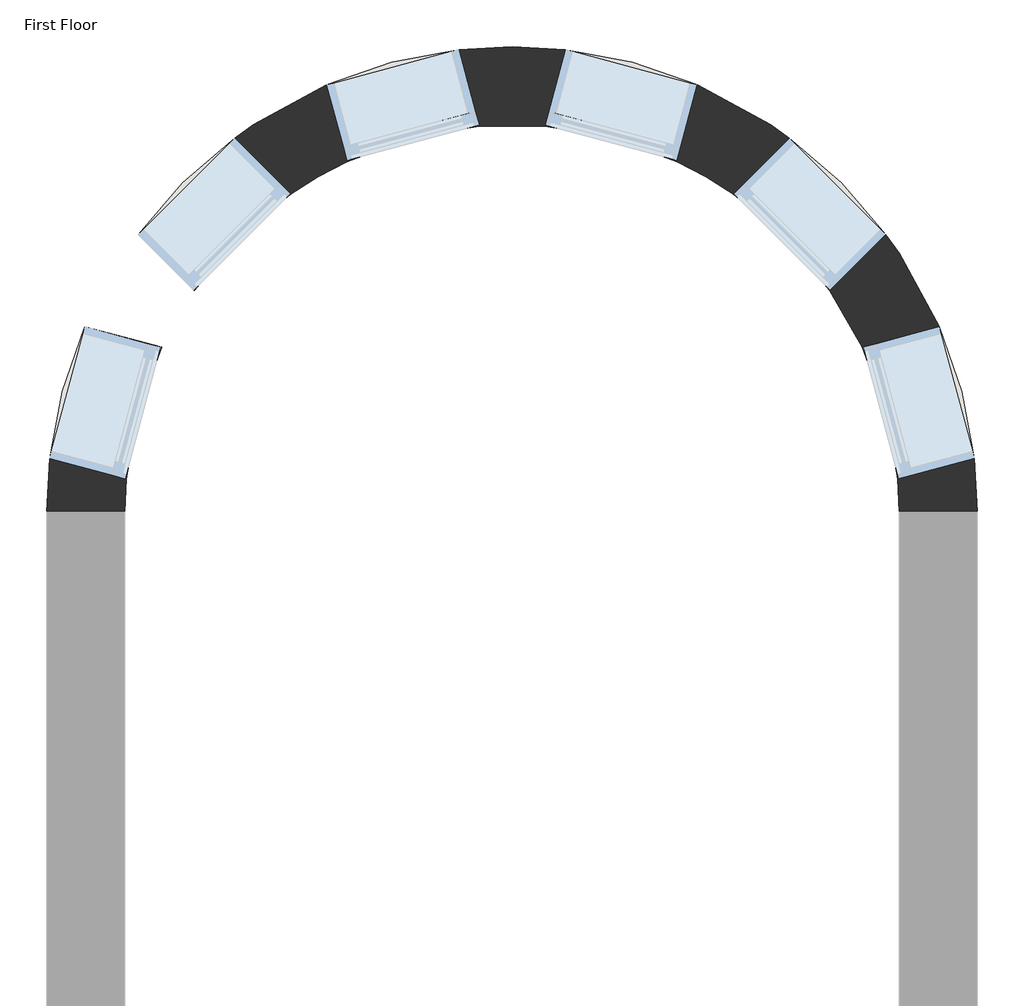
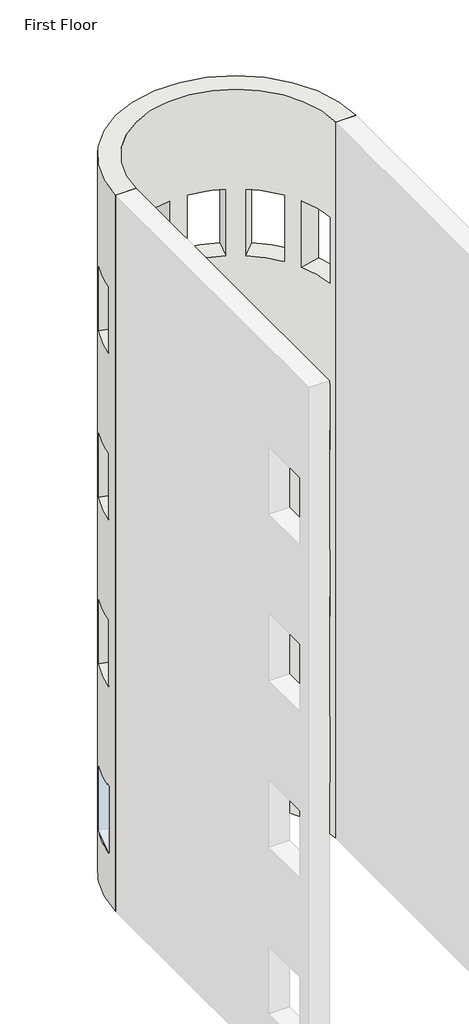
# One storey, part 2 of 3: 1 wall.
"""IFC4 building model written with IfcOpenShell, lengths in millimetres."""

from ifc_helpers import new_model, si_unit, frame, origin, place, context, project, spatial, polyline, circle_curve, element, save
from ifc_brep_helpers import plane_surface, cylinder_surface, revolved_surface, advanced_brep

model = new_model("IFC4")

# Units and contexts
model_context = context("Model", 3, world=origin())
ifc_project = project(units=[si_unit("LENGTHUNIT", "METRE", prefix="MILLI")], contexts=[model_context])

# Site, building, storey
site = spatial("IfcSite", under=ifc_project)
building = spatial("IfcBuilding", under=site)
storey = spatial("IfcBuildingStorey", under=building, Name="First Floor", Elevation=0.0)

# Wall
placement = place(None, origin())
element("IfcWall", 1, ObjectType="Exterior - Brick on Mtl. Stud", at=placement, inside=storey, context=model_context, shape_type="AdvancedBrep", body=[
    advanced_brep(
    [(4569.0924567, 5210.2556601, 13107.0), (409.0924567, 5210.2556601, 13107.0), (759.0924567, 5210.2556601, 13107.0), (4219.0924567, 5210.2556601, 13107.0), (409.0924567, 5210.2556601, 0.0), (4569.0924567, 5210.2556601, 0.0), (4219.0924567, 5210.2556601, 0.0), (759.0924567, 5210.2556601, 0.0), (580.6237401, 6037.3875465, 915.0), (580.6237401, 6037.3875465, 2135.0), (422.7441225, 5448.1727925, 2135.0), (422.7441225, 5448.1727925, 915.0), (2251.1753243, 7276.6039943, 915.0), (2251.1753243, 7276.6039943, 2135.0), (1661.9605703, 7118.7243768, 2135.0), (1661.9605703, 7118.7243768, 915.0), (1249.876009, 6880.8072444, 915.0), (1249.876009, 6880.8072444, 2135.0), (818.5408725, 6449.4721078, 2135.0), (818.5408725, 6449.4721078, 915.0), (3728.3089044, 6880.8072444, 2135.0), (3728.3089044, 6880.8072444, 915.0), (4159.644041, 6449.4721078, 915.0), (4159.644041, 6449.4721078, 2135.0), (2727.0095891, 7276.6039943, 2135.0), (2727.0095891, 7276.6039943, 915.0), (3316.2243431, 7118.7243768, 915.0), (3316.2243431, 7118.7243768, 2135.0), (4397.5611734, 6037.3875465, 2135.0), (4397.5611734, 6037.3875465, 915.0), (4555.4407909, 5448.1727925, 915.0), (4555.4407909, 5448.1727925, 2135.0), (3728.3089044, 6880.8072444, 10059.0), (4159.644041, 6449.4721078, 10059.0), (4159.644041, 6449.4721078, 11279.0), (3728.3089044, 6880.8072444, 11279.0), (2727.0095891, 7276.6039943, 10059.0), (3316.2243431, 7118.7243768, 10059.0), (3316.2243431, 7118.7243768, 11279.0), (2727.0095891, 7276.6039943, 11279.0), (4397.5611734, 6037.3875465, 10059.0), (4555.4407909, 5448.1727925, 10059.0), (4555.4407909, 5448.1727925, 11279.0), (4397.5611734, 6037.3875465, 11279.0), (1249.876009, 6880.8072444, 10059.0), (1249.876009, 6880.8072444, 11279.0), (818.5408725, 6449.4721078, 11279.0), (818.5408725, 6449.4721078, 10059.0), (2251.1753243, 7276.6039943, 10059.0), (2251.1753243, 7276.6039943, 11279.0), (1661.9605703, 7118.7243768, 11279.0), (1661.9605703, 7118.7243768, 10059.0), (580.6237401, 6037.3875465, 10059.0), (580.6237401, 6037.3875465, 11279.0), (422.7441225, 5448.1727925, 11279.0), (422.7441225, 5448.1727925, 10059.0), (3728.3089044, 6880.8072444, 3963.0), (4159.644041, 6449.4721078, 3963.0), (4159.644041, 6449.4721078, 5183.0), (3728.3089044, 6880.8072444, 5183.0), (2727.0095891, 7276.6039943, 3963.0), (3316.2243431, 7118.7243768, 3963.0), (3316.2243431, 7118.7243768, 5183.0), (2727.0095891, 7276.6039943, 5183.0), (4397.5611734, 6037.3875465, 3963.0), (4555.4407909, 5448.1727925, 3963.0), (4555.4407909, 5448.1727925, 5183.0), (4397.5611734, 6037.3875465, 5183.0), (1249.876009, 6880.8072444, 3963.0), (1249.876009, 6880.8072444, 5183.0), (818.5408725, 6449.4721078, 5183.0), (818.5408725, 6449.4721078, 3963.0), (2251.1753243, 7276.6039943, 3963.0), (2251.1753243, 7276.6039943, 5183.0), (1661.9605703, 7118.7243768, 5183.0), (1661.9605703, 7118.7243768, 3963.0), (580.6237401, 6037.3875465, 3963.0), (580.6237401, 6037.3875465, 5183.0), (422.7441225, 5448.1727925, 5183.0), (422.7441225, 5448.1727925, 3963.0), (3728.3089044, 6880.8072444, 7011.0), (4159.644041, 6449.4721078, 7011.0), (4159.644041, 6449.4721078, 8231.0), (3728.3089044, 6880.8072444, 8231.0), (2727.0095891, 7276.6039943, 7011.0), (3316.2243431, 7118.7243768, 7011.0), (3316.2243431, 7118.7243768, 8231.0), (2727.0095891, 7276.6039943, 8231.0), (4397.5611734, 6037.3875465, 7011.0), (4555.4407909, 5448.1727925, 7011.0), (4555.4407909, 5448.1727925, 8231.0), (4397.5611734, 6037.3875465, 8231.0), (1249.876009, 6880.8072444, 7011.0), (1249.876009, 6880.8072444, 8231.0), (818.5408725, 6449.4721078, 8231.0), (818.5408725, 6449.4721078, 7011.0), (2251.1753243, 7276.6039943, 7011.0), (2251.1753243, 7276.6039943, 8231.0), (1661.9605703, 7118.7243768, 8231.0), (1661.9605703, 7118.7243768, 7011.0), (580.6237401, 6037.3875465, 7011.0), (580.6237401, 6037.3875465, 8231.0), (422.7441225, 5448.1727925, 8231.0), (422.7441225, 5448.1727925, 7011.0), (923.1553069, 5945.6064898, 915.0), (765.2756894, 5356.3917358, 915.0), (765.2756894, 5356.3917358, 2135.0), (923.1553069, 5945.6064898, 2135.0), (2342.956381, 6934.0724274, 2135.0), (2342.956381, 6934.0724274, 915.0), (1753.741627, 6776.1928099, 915.0), (1753.741627, 6776.1928099, 2135.0), (1500.6265191, 6630.0567342, 2135.0), (1500.6265191, 6630.0567342, 915.0), (1069.2913826, 6198.7215977, 915.0), (1069.2913826, 6198.7215977, 2135.0), (3477.5583943, 6630.0567342, 915.0), (3477.5583943, 6630.0567342, 2135.0), (3908.8935309, 6198.7215977, 2135.0), (3908.8935309, 6198.7215977, 915.0), (2635.2285324, 6934.0724274, 915.0), (2635.2285324, 6934.0724274, 2135.0), (3224.4432864, 6776.1928099, 2135.0), (3224.4432864, 6776.1928099, 915.0), (4055.0296065, 5945.6064898, 915.0), (4055.0296065, 5945.6064898, 2135.0), (4212.9092241, 5356.3917358, 2135.0), (4212.9092241, 5356.3917358, 915.0), (3477.5583943, 6630.0567342, 10059.0), (3477.5583943, 6630.0567342, 11279.0), (3908.8935309, 6198.7215977, 11279.0), (3908.8935309, 6198.7215977, 10059.0), (2635.2285324, 6934.0724274, 10059.0), (2635.2285324, 6934.0724274, 11279.0), (3224.4432864, 6776.1928099, 11279.0), (3224.4432864, 6776.1928099, 10059.0), (4055.0296065, 5945.6064898, 10059.0), (4055.0296065, 5945.6064898, 11279.0), (4212.9092241, 5356.3917358, 11279.0), (4212.9092241, 5356.3917358, 10059.0), (1500.6265191, 6630.0567342, 10059.0), (1069.2913826, 6198.7215977, 10059.0), (1069.2913826, 6198.7215977, 11279.0), (1500.6265191, 6630.0567342, 11279.0), (2342.956381, 6934.0724274, 10059.0), (1753.741627, 6776.1928099, 10059.0), (1753.741627, 6776.1928099, 11279.0), (2342.956381, 6934.0724274, 11279.0), (923.1553069, 5945.6064898, 10059.0), (765.2756894, 5356.3917358, 10059.0), (765.2756894, 5356.3917358, 11279.0), (923.1553069, 5945.6064898, 11279.0), (3477.5583943, 6630.0567342, 3963.0), (3477.5583943, 6630.0567342, 5183.0), (3908.8935309, 6198.7215977, 5183.0), (3908.8935309, 6198.7215977, 3963.0), (2635.2285324, 6934.0724274, 3963.0), (2635.2285324, 6934.0724274, 5183.0), (3224.4432864, 6776.1928099, 5183.0), (3224.4432864, 6776.1928099, 3963.0), (4055.0296065, 5945.6064898, 3963.0), (4055.0296065, 5945.6064898, 5183.0), (4212.9092241, 5356.3917358, 5183.0), (4212.9092241, 5356.3917358, 3963.0), (1500.6265191, 6630.0567342, 3963.0), (1069.2913826, 6198.7215977, 3963.0), (1069.2913826, 6198.7215977, 5183.0), (1500.6265191, 6630.0567342, 5183.0), (2342.956381, 6934.0724274, 3963.0), (1753.741627, 6776.1928099, 3963.0), (1753.741627, 6776.1928099, 5183.0), (2342.956381, 6934.0724274, 5183.0), (923.1553069, 5945.6064898, 3963.0), (765.2756894, 5356.3917358, 3963.0), (765.2756894, 5356.3917358, 5183.0), (923.1553069, 5945.6064898, 5183.0), (3477.5583943, 6630.0567342, 7011.0), (3477.5583943, 6630.0567342, 8231.0), (3908.8935309, 6198.7215977, 8231.0), (3908.8935309, 6198.7215977, 7011.0), (2635.2285324, 6934.0724274, 7011.0), (2635.2285324, 6934.0724274, 8231.0), (3224.4432864, 6776.1928099, 8231.0), (3224.4432864, 6776.1928099, 7011.0), (4055.0296065, 5945.6064898, 7011.0), (4055.0296065, 5945.6064898, 8231.0), (4212.9092241, 5356.3917358, 8231.0), (4212.9092241, 5356.3917358, 7011.0), (1500.6265191, 6630.0567342, 7011.0), (1069.2913826, 6198.7215977, 7011.0), (1069.2913826, 6198.7215977, 8231.0), (1500.6265191, 6630.0567342, 8231.0), (2342.956381, 6934.0724274, 7011.0), (1753.741627, 6776.1928099, 7011.0), (1753.741627, 6776.1928099, 8231.0), (2342.956381, 6934.0724274, 8231.0), (923.1553069, 5945.6064898, 7011.0), (765.2756894, 5356.3917358, 7011.0), (765.2756894, 5356.3917358, 8231.0), (923.1553069, 5945.6064898, 8231.0)],
    [
        (0, 1, circle_curve(frame((2489.0924567, 5210.2556601, 13107.0), z_axis=(0.0, 0.0, 1.0), x_axis=(1.0, 0.0, 0.0)), 2080.0)),
        (1, 2),
        (2, 3, circle_curve(frame((2489.0924567, 5210.2556601, 13107.0), z_axis=(0.0, 0.0, -1.0), x_axis=(1.0, 0.0, 0.0)), 1730.0)),
        (3, 0),
        (4, 5, circle_curve(frame((2489.0924567, 5210.2556601, 0.0), z_axis=(0.0, 0.0, -1.0), x_axis=(1.0, 0.0, 0.0)), 2080.0)),
        (5, 6),
        (6, 7, circle_curve(frame((2489.0924567, 5210.2556601, 0.0), z_axis=(0.0, 0.0, 1.0), x_axis=(1.0, 0.0, 0.0)), 1730.0)),
        (7, 4),
        (0, 5),
        (4, 1),
        (8, 9),
        (9, 10, circle_curve(frame((2489.0924567, 5210.2556601, 2135.0), z_axis=(0.0, 0.0, 1.0), x_axis=(1.0, 0.0, 0.0)), 2080.0)),
        (10, 11),
        (11, 8, circle_curve(frame((2489.0924567, 5210.2556601, 915.0), z_axis=(0.0, 0.0, -1.0), x_axis=(1.0, 0.0, 0.0)), 2080.0)),
        (12, 13),
        (13, 14, circle_curve(frame((2489.0924567, 5210.2556601, 2135.0), z_axis=(0.0, 0.0, 1.0), x_axis=(1.0, 0.0, 0.0)), 2080.0)),
        (14, 15),
        (15, 12, circle_curve(frame((2489.0924567, 5210.2556601, 915.0), z_axis=(0.0, 0.0, -1.0), x_axis=(1.0, 0.0, 0.0)), 2080.0)),
        (16, 17),
        (17, 18, circle_curve(frame((2489.0924567, 5210.2556601, 2135.0), z_axis=(0.0, 0.0, 1.0), x_axis=(1.0, 0.0, 0.0)), 2080.0)),
        (18, 19),
        (19, 16, circle_curve(frame((2489.0924567, 5210.2556601, 915.0), z_axis=(0.0, 0.0, -1.0), x_axis=(1.0, 0.0, 0.0)), 2080.0)),
        (20, 21),
        (21, 22, circle_curve(frame((2489.0924567, 5210.2556601, 915.0), z_axis=(0.0, 0.0, -1.0), x_axis=(1.0, 0.0, 0.0)), 2080.0)),
        (22, 23),
        (23, 20, circle_curve(frame((2489.0924567, 5210.2556601, 2135.0), z_axis=(0.0, 0.0, 1.0), x_axis=(1.0, 0.0, 0.0)), 2080.0)),
        (24, 25),
        (25, 26, circle_curve(frame((2489.0924567, 5210.2556601, 915.0), z_axis=(0.0, 0.0, -1.0), x_axis=(1.0, 0.0, 0.0)), 2080.0)),
        (26, 27),
        (27, 24, circle_curve(frame((2489.0924567, 5210.2556601, 2135.0), z_axis=(0.0, 0.0, 1.0), x_axis=(1.0, 0.0, 0.0)), 2080.0)),
        (28, 29),
        (29, 30, circle_curve(frame((2489.0924567, 5210.2556601, 915.0), z_axis=(0.0, 0.0, -1.0), x_axis=(1.0, 0.0, 0.0)), 2080.0)),
        (30, 31),
        (31, 28, circle_curve(frame((2489.0924567, 5210.2556601, 2135.0), z_axis=(0.0, 0.0, 1.0), x_axis=(1.0, 0.0, 0.0)), 2080.0)),
        (32, 33, circle_curve(frame((2489.0924567, 5210.2556601, 10059.0), z_axis=(0.0, 0.0, -1.0), x_axis=(1.0, 0.0, 0.0)), 2080.0)),
        (33, 34),
        (34, 35, circle_curve(frame((2489.0924567, 5210.2556601, 11279.0), z_axis=(0.0, 0.0, 1.0), x_axis=(1.0, 0.0, 0.0)), 2080.0)),
        (35, 32),
        (36, 37, circle_curve(frame((2489.0924567, 5210.2556601, 10059.0), z_axis=(0.0, 0.0, -1.0), x_axis=(1.0, 0.0, 0.0)), 2080.0)),
        (37, 38),
        (38, 39, circle_curve(frame((2489.0924567, 5210.2556601, 11279.0), z_axis=(0.0, 0.0, 1.0), x_axis=(1.0, 0.0, 0.0)), 2080.0)),
        (39, 36),
        (40, 41, circle_curve(frame((2489.0924567, 5210.2556601, 10059.0), z_axis=(0.0, 0.0, -1.0), x_axis=(1.0, 0.0, 0.0)), 2080.0)),
        (41, 42),
        (42, 43, circle_curve(frame((2489.0924567, 5210.2556601, 11279.0), z_axis=(0.0, 0.0, 1.0), x_axis=(1.0, 0.0, 0.0)), 2080.0)),
        (43, 40),
        (44, 45),
        (45, 46, circle_curve(frame((2489.0924567, 5210.2556601, 11279.0), z_axis=(0.0, 0.0, 1.0), x_axis=(1.0, 0.0, 0.0)), 2080.0)),
        (46, 47),
        (47, 44, circle_curve(frame((2489.0924567, 5210.2556601, 10059.0), z_axis=(0.0, 0.0, -1.0), x_axis=(1.0, 0.0, 0.0)), 2080.0)),
        (48, 49),
        (49, 50, circle_curve(frame((2489.0924567, 5210.2556601, 11279.0), z_axis=(0.0, 0.0, 1.0), x_axis=(1.0, 0.0, 0.0)), 2080.0)),
        (50, 51),
        (51, 48, circle_curve(frame((2489.0924567, 5210.2556601, 10059.0), z_axis=(0.0, 0.0, -1.0), x_axis=(1.0, 0.0, 0.0)), 2080.0)),
        (52, 53),
        (53, 54, circle_curve(frame((2489.0924567, 5210.2556601, 11279.0), z_axis=(0.0, 0.0, 1.0), x_axis=(1.0, 0.0, 0.0)), 2080.0)),
        (54, 55),
        (55, 52, circle_curve(frame((2489.0924567, 5210.2556601, 10059.0), z_axis=(0.0, 0.0, -1.0), x_axis=(1.0, 0.0, 0.0)), 2080.0)),
        (56, 57, circle_curve(frame((2489.0924567, 5210.2556601, 3963.0), z_axis=(0.0, 0.0, -1.0), x_axis=(1.0, 0.0, 0.0)), 2080.0)),
        (57, 58),
        (58, 59, circle_curve(frame((2489.0924567, 5210.2556601, 5183.0), z_axis=(0.0, 0.0, 1.0), x_axis=(1.0, 0.0, 0.0)), 2080.0)),
        (59, 56),
        (60, 61, circle_curve(frame((2489.0924567, 5210.2556601, 3963.0), z_axis=(0.0, 0.0, -1.0), x_axis=(1.0, 0.0, 0.0)), 2080.0)),
        (61, 62),
        (62, 63, circle_curve(frame((2489.0924567, 5210.2556601, 5183.0), z_axis=(0.0, 0.0, 1.0), x_axis=(1.0, 0.0, 0.0)), 2080.0)),
        (63, 60),
        (64, 65, circle_curve(frame((2489.0924567, 5210.2556601, 3963.0), z_axis=(0.0, 0.0, -1.0), x_axis=(1.0, 0.0, 0.0)), 2080.0)),
        (65, 66),
        (66, 67, circle_curve(frame((2489.0924567, 5210.2556601, 5183.0), z_axis=(0.0, 0.0, 1.0), x_axis=(1.0, 0.0, 0.0)), 2080.0)),
        (67, 64),
        (68, 69),
        (69, 70, circle_curve(frame((2489.0924567, 5210.2556601, 5183.0), z_axis=(0.0, 0.0, 1.0), x_axis=(1.0, 0.0, 0.0)), 2080.0)),
        (70, 71),
        (71, 68, circle_curve(frame((2489.0924567, 5210.2556601, 3963.0), z_axis=(0.0, 0.0, -1.0), x_axis=(1.0, 0.0, 0.0)), 2080.0)),
        (72, 73),
        (73, 74, circle_curve(frame((2489.0924567, 5210.2556601, 5183.0), z_axis=(0.0, 0.0, 1.0), x_axis=(1.0, 0.0, 0.0)), 2080.0)),
        (74, 75),
        (75, 72, circle_curve(frame((2489.0924567, 5210.2556601, 3963.0), z_axis=(0.0, 0.0, -1.0), x_axis=(1.0, 0.0, 0.0)), 2080.0)),
        (76, 77),
        (77, 78, circle_curve(frame((2489.0924567, 5210.2556601, 5183.0), z_axis=(0.0, 0.0, 1.0), x_axis=(1.0, 0.0, 0.0)), 2080.0)),
        (78, 79),
        (79, 76, circle_curve(frame((2489.0924567, 5210.2556601, 3963.0), z_axis=(0.0, 0.0, -1.0), x_axis=(1.0, 0.0, 0.0)), 2080.0)),
        (80, 81, circle_curve(frame((2489.0924567, 5210.2556601, 7011.0), z_axis=(0.0, 0.0, -1.0), x_axis=(1.0, 0.0, 0.0)), 2080.0)),
        (81, 82),
        (82, 83, circle_curve(frame((2489.0924567, 5210.2556601, 8231.0), z_axis=(0.0, 0.0, 1.0), x_axis=(1.0, 0.0, 0.0)), 2080.0)),
        (83, 80),
        (84, 85, circle_curve(frame((2489.0924567, 5210.2556601, 7011.0), z_axis=(0.0, 0.0, -1.0), x_axis=(1.0, 0.0, 0.0)), 2080.0)),
        (85, 86),
        (86, 87, circle_curve(frame((2489.0924567, 5210.2556601, 8231.0), z_axis=(0.0, 0.0, 1.0), x_axis=(1.0, 0.0, 0.0)), 2080.0)),
        (87, 84),
        (88, 89, circle_curve(frame((2489.0924567, 5210.2556601, 7011.0), z_axis=(0.0, 0.0, -1.0), x_axis=(1.0, 0.0, 0.0)), 2080.0)),
        (89, 90),
        (90, 91, circle_curve(frame((2489.0924567, 5210.2556601, 8231.0), z_axis=(0.0, 0.0, 1.0), x_axis=(1.0, 0.0, 0.0)), 2080.0)),
        (91, 88),
        (92, 93),
        (93, 94, circle_curve(frame((2489.0924567, 5210.2556601, 8231.0), z_axis=(0.0, 0.0, 1.0), x_axis=(1.0, 0.0, 0.0)), 2080.0)),
        (94, 95),
        (95, 92, circle_curve(frame((2489.0924567, 5210.2556601, 7011.0), z_axis=(0.0, 0.0, -1.0), x_axis=(1.0, 0.0, 0.0)), 2080.0)),
        (96, 97),
        (97, 98, circle_curve(frame((2489.0924567, 5210.2556601, 8231.0), z_axis=(0.0, 0.0, 1.0), x_axis=(1.0, 0.0, 0.0)), 2080.0)),
        (98, 99),
        (99, 96, circle_curve(frame((2489.0924567, 5210.2556601, 7011.0), z_axis=(0.0, 0.0, -1.0), x_axis=(1.0, 0.0, 0.0)), 2080.0)),
        (100, 101),
        (101, 102, circle_curve(frame((2489.0924567, 5210.2556601, 8231.0), z_axis=(0.0, 0.0, 1.0), x_axis=(1.0, 0.0, 0.0)), 2080.0)),
        (102, 103),
        (103, 100, circle_curve(frame((2489.0924567, 5210.2556601, 7011.0), z_axis=(0.0, 0.0, -1.0), x_axis=(1.0, 0.0, 0.0)), 2080.0)),
        (7, 2),
        (6, 3),
        (104, 105, circle_curve(frame((2489.0924567, 5210.2556601, 915.0), z_axis=(0.0, 0.0, 1.0), x_axis=(1.0, 0.0, 0.0)), 1730.0)),
        (105, 106),
        (106, 107, circle_curve(frame((2489.0924567, 5210.2556601, 2135.0), z_axis=(0.0, 0.0, -1.0), x_axis=(1.0, 0.0, 0.0)), 1730.0)),
        (107, 104),
        (108, 109),
        (109, 110, circle_curve(frame((2489.0924567, 5210.2556601, 915.0), z_axis=(0.0, 0.0, 1.0), x_axis=(1.0, 0.0, 0.0)), 1730.0)),
        (110, 111),
        (111, 108, circle_curve(frame((2489.0924567, 5210.2556601, 2135.0), z_axis=(0.0, 0.0, -1.0), x_axis=(1.0, 0.0, 0.0)), 1730.0)),
        (112, 113),
        (113, 114, circle_curve(frame((2489.0924567, 5210.2556601, 915.0), z_axis=(0.0, 0.0, 1.0), x_axis=(1.0, 0.0, 0.0)), 1730.0)),
        (114, 115),
        (115, 112, circle_curve(frame((2489.0924567, 5210.2556601, 2135.0), z_axis=(0.0, 0.0, -1.0), x_axis=(1.0, 0.0, 0.0)), 1730.0)),
        (116, 117),
        (117, 118, circle_curve(frame((2489.0924567, 5210.2556601, 2135.0), z_axis=(0.0, 0.0, -1.0), x_axis=(1.0, 0.0, 0.0)), 1730.0)),
        (118, 119),
        (119, 116, circle_curve(frame((2489.0924567, 5210.2556601, 915.0), z_axis=(0.0, 0.0, 1.0), x_axis=(1.0, 0.0, 0.0)), 1730.0)),
        (120, 121),
        (121, 122, circle_curve(frame((2489.0924567, 5210.2556601, 2135.0), z_axis=(0.0, 0.0, -1.0), x_axis=(1.0, 0.0, 0.0)), 1730.0)),
        (122, 123),
        (123, 120, circle_curve(frame((2489.0924567, 5210.2556601, 915.0), z_axis=(0.0, 0.0, 1.0), x_axis=(1.0, 0.0, 0.0)), 1730.0)),
        (124, 125),
        (125, 126, circle_curve(frame((2489.0924567, 5210.2556601, 2135.0), z_axis=(0.0, 0.0, -1.0), x_axis=(1.0, 0.0, 0.0)), 1730.0)),
        (126, 127),
        (127, 124, circle_curve(frame((2489.0924567, 5210.2556601, 915.0), z_axis=(0.0, 0.0, 1.0), x_axis=(1.0, 0.0, 0.0)), 1730.0)),
        (128, 129),
        (129, 130, circle_curve(frame((2489.0924567, 5210.2556601, 11279.0), z_axis=(0.0, 0.0, -1.0), x_axis=(1.0, 0.0, 0.0)), 1730.0)),
        (130, 131),
        (131, 128, circle_curve(frame((2489.0924567, 5210.2556601, 10059.0), z_axis=(0.0, 0.0, 1.0), x_axis=(1.0, 0.0, 0.0)), 1730.0)),
        (132, 133),
        (133, 134, circle_curve(frame((2489.0924567, 5210.2556601, 11279.0), z_axis=(0.0, 0.0, -1.0), x_axis=(1.0, 0.0, 0.0)), 1730.0)),
        (134, 135),
        (135, 132, circle_curve(frame((2489.0924567, 5210.2556601, 10059.0), z_axis=(0.0, 0.0, 1.0), x_axis=(1.0, 0.0, 0.0)), 1730.0)),
        (136, 137),
        (137, 138, circle_curve(frame((2489.0924567, 5210.2556601, 11279.0), z_axis=(0.0, 0.0, -1.0), x_axis=(1.0, 0.0, 0.0)), 1730.0)),
        (138, 139),
        (139, 136, circle_curve(frame((2489.0924567, 5210.2556601, 10059.0), z_axis=(0.0, 0.0, 1.0), x_axis=(1.0, 0.0, 0.0)), 1730.0)),
        (140, 141, circle_curve(frame((2489.0924567, 5210.2556601, 10059.0), z_axis=(0.0, 0.0, 1.0), x_axis=(1.0, 0.0, 0.0)), 1730.0)),
        (141, 142),
        (142, 143, circle_curve(frame((2489.0924567, 5210.2556601, 11279.0), z_axis=(0.0, 0.0, -1.0), x_axis=(1.0, 0.0, 0.0)), 1730.0)),
        (143, 140),
        (144, 145, circle_curve(frame((2489.0924567, 5210.2556601, 10059.0), z_axis=(0.0, 0.0, 1.0), x_axis=(1.0, 0.0, 0.0)), 1730.0)),
        (145, 146),
        (146, 147, circle_curve(frame((2489.0924567, 5210.2556601, 11279.0), z_axis=(0.0, 0.0, -1.0), x_axis=(1.0, 0.0, 0.0)), 1730.0)),
        (147, 144),
        (148, 149, circle_curve(frame((2489.0924567, 5210.2556601, 10059.0), z_axis=(0.0, 0.0, 1.0), x_axis=(1.0, 0.0, 0.0)), 1730.0)),
        (149, 150),
        (150, 151, circle_curve(frame((2489.0924567, 5210.2556601, 11279.0), z_axis=(0.0, 0.0, -1.0), x_axis=(1.0, 0.0, 0.0)), 1730.0)),
        (151, 148),
        (152, 153),
        (153, 154, circle_curve(frame((2489.0924567, 5210.2556601, 5183.0), z_axis=(0.0, 0.0, -1.0), x_axis=(1.0, 0.0, 0.0)), 1730.0)),
        (154, 155),
        (155, 152, circle_curve(frame((2489.0924567, 5210.2556601, 3963.0), z_axis=(0.0, 0.0, 1.0), x_axis=(1.0, 0.0, 0.0)), 1730.0)),
        (156, 157),
        (157, 158, circle_curve(frame((2489.0924567, 5210.2556601, 5183.0), z_axis=(0.0, 0.0, -1.0), x_axis=(1.0, 0.0, 0.0)), 1730.0)),
        (158, 159),
        (159, 156, circle_curve(frame((2489.0924567, 5210.2556601, 3963.0), z_axis=(0.0, 0.0, 1.0), x_axis=(1.0, 0.0, 0.0)), 1730.0)),
        (160, 161),
        (161, 162, circle_curve(frame((2489.0924567, 5210.2556601, 5183.0), z_axis=(0.0, 0.0, -1.0), x_axis=(1.0, 0.0, 0.0)), 1730.0)),
        (162, 163),
        (163, 160, circle_curve(frame((2489.0924567, 5210.2556601, 3963.0), z_axis=(0.0, 0.0, 1.0), x_axis=(1.0, 0.0, 0.0)), 1730.0)),
        (164, 165, circle_curve(frame((2489.0924567, 5210.2556601, 3963.0), z_axis=(0.0, 0.0, 1.0), x_axis=(1.0, 0.0, 0.0)), 1730.0)),
        (165, 166),
        (166, 167, circle_curve(frame((2489.0924567, 5210.2556601, 5183.0), z_axis=(0.0, 0.0, -1.0), x_axis=(1.0, 0.0, 0.0)), 1730.0)),
        (167, 164),
        (168, 169, circle_curve(frame((2489.0924567, 5210.2556601, 3963.0), z_axis=(0.0, 0.0, 1.0), x_axis=(1.0, 0.0, 0.0)), 1730.0)),
        (169, 170),
        (170, 171, circle_curve(frame((2489.0924567, 5210.2556601, 5183.0), z_axis=(0.0, 0.0, -1.0), x_axis=(1.0, 0.0, 0.0)), 1730.0)),
        (171, 168),
        (172, 173, circle_curve(frame((2489.0924567, 5210.2556601, 3963.0), z_axis=(0.0, 0.0, 1.0), x_axis=(1.0, 0.0, 0.0)), 1730.0)),
        (173, 174),
        (174, 175, circle_curve(frame((2489.0924567, 5210.2556601, 5183.0), z_axis=(0.0, 0.0, -1.0), x_axis=(1.0, 0.0, 0.0)), 1730.0)),
        (175, 172),
        (176, 177),
        (177, 178, circle_curve(frame((2489.0924567, 5210.2556601, 8231.0), z_axis=(0.0, 0.0, -1.0), x_axis=(1.0, 0.0, 0.0)), 1730.0)),
        (178, 179),
        (179, 176, circle_curve(frame((2489.0924567, 5210.2556601, 7011.0), z_axis=(0.0, 0.0, 1.0), x_axis=(1.0, 0.0, 0.0)), 1730.0)),
        (180, 181),
        (181, 182, circle_curve(frame((2489.0924567, 5210.2556601, 8231.0), z_axis=(0.0, 0.0, -1.0), x_axis=(1.0, 0.0, 0.0)), 1730.0)),
        (182, 183),
        (183, 180, circle_curve(frame((2489.0924567, 5210.2556601, 7011.0), z_axis=(0.0, 0.0, 1.0), x_axis=(1.0, 0.0, 0.0)), 1730.0)),
        (184, 185),
        (185, 186, circle_curve(frame((2489.0924567, 5210.2556601, 8231.0), z_axis=(0.0, 0.0, -1.0), x_axis=(1.0, 0.0, 0.0)), 1730.0)),
        (186, 187),
        (187, 184, circle_curve(frame((2489.0924567, 5210.2556601, 7011.0), z_axis=(0.0, 0.0, 1.0), x_axis=(1.0, 0.0, 0.0)), 1730.0)),
        (188, 189, circle_curve(frame((2489.0924567, 5210.2556601, 7011.0), z_axis=(0.0, 0.0, 1.0), x_axis=(1.0, 0.0, 0.0)), 1730.0)),
        (189, 190),
        (190, 191, circle_curve(frame((2489.0924567, 5210.2556601, 8231.0), z_axis=(0.0, 0.0, -1.0), x_axis=(1.0, 0.0, 0.0)), 1730.0)),
        (191, 188),
        (192, 193, circle_curve(frame((2489.0924567, 5210.2556601, 7011.0), z_axis=(0.0, 0.0, 1.0), x_axis=(1.0, 0.0, 0.0)), 1730.0)),
        (193, 194),
        (194, 195, circle_curve(frame((2489.0924567, 5210.2556601, 8231.0), z_axis=(0.0, 0.0, -1.0), x_axis=(1.0, 0.0, 0.0)), 1730.0)),
        (195, 192),
        (196, 197, circle_curve(frame((2489.0924567, 5210.2556601, 7011.0), z_axis=(0.0, 0.0, 1.0), x_axis=(1.0, 0.0, 0.0)), 1730.0)),
        (197, 198),
        (198, 199, circle_curve(frame((2489.0924567, 5210.2556601, 8231.0), z_axis=(0.0, 0.0, -1.0), x_axis=(1.0, 0.0, 0.0)), 1730.0)),
        (199, 196),
        (8, 104),
        (107, 9),
        (106, 10),
        (105, 11),
        (12, 109),
        (108, 13),
        (111, 14),
        (110, 15),
        (16, 113),
        (112, 17),
        (115, 18),
        (114, 19),
        (116, 21),
        (20, 117),
        (23, 118),
        (22, 119),
        (120, 25),
        (24, 121),
        (27, 122),
        (26, 123),
        (124, 29),
        (28, 125),
        (31, 126),
        (30, 127),
        (128, 32),
        (35, 129),
        (34, 130),
        (33, 131),
        (132, 36),
        (39, 133),
        (38, 134),
        (37, 135),
        (136, 40),
        (43, 137),
        (42, 138),
        (41, 139),
        (44, 140),
        (143, 45),
        (142, 46),
        (141, 47),
        (48, 144),
        (147, 49),
        (146, 50),
        (145, 51),
        (52, 148),
        (151, 53),
        (150, 54),
        (149, 55),
        (152, 56),
        (59, 153),
        (58, 154),
        (57, 155),
        (156, 60),
        (63, 157),
        (62, 158),
        (61, 159),
        (160, 64),
        (67, 161),
        (66, 162),
        (65, 163),
        (68, 164),
        (167, 69),
        (166, 70),
        (165, 71),
        (72, 168),
        (171, 73),
        (170, 74),
        (169, 75),
        (76, 172),
        (175, 77),
        (174, 78),
        (173, 79),
        (176, 80),
        (83, 177),
        (82, 178),
        (81, 179),
        (180, 84),
        (87, 181),
        (86, 182),
        (85, 183),
        (184, 88),
        (91, 185),
        (90, 186),
        (89, 187),
        (92, 188),
        (191, 93),
        (190, 94),
        (189, 95),
        (96, 192),
        (195, 97),
        (194, 98),
        (193, 99),
        (100, 196),
        (199, 101),
        (198, 102),
        (197, 103),
    ],
    [
        plane_surface(frame((4569.0924567, 5210.2556601, 13107.0), z_axis=(0.0, 0.0, 1.0), x_axis=(0.0, 1.0, 0.0))),
        plane_surface(frame((4569.0924567, 5210.2556601, 0.0), z_axis=(0.0, 0.0, -1.0), x_axis=(0.0, -1.0, 0.0))),
        cylinder_surface(frame((2489.0924567, 5210.2556601, 0.0), z_axis=(0.0, 0.0, 1.0), x_axis=(1.0, 0.0, 0.0)), 2080.0),
        plane_surface(frame((409.0924567, 5210.2556601, 13107.0), z_axis=(0.0, -1.0, 0.0), x_axis=(0.0, 0.0, -1.0))),
        revolved_surface(polyline([(4219.0924567, 5210.2556601, 0.0), (4219.0924567, 5210.2556601, 13107.0)]), (2489.0924567, 5210.2556601, 0.0), (0.0, 0.0, -1.0)),
        plane_surface(frame((4219.0924567, 5210.2556601, 13107.0), z_axis=(0.0, -1.0, 0.0), x_axis=(0.0, 0.0, -1.0))),
        plane_surface(frame((580.6237401, 6037.3875465, 915.0), z_axis=(-0.2588190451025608, -0.9659258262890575, 0.0), x_axis=(0.9659258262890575, -0.2588190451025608, 0.0))),
        plane_surface(frame((580.6237401, 6037.3875465, 2135.0), z_axis=(0.0, 0.0, -1.0000000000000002), x_axis=(0.9659258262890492, -0.2588190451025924, 0.0))),
        plane_surface(frame((422.7441225, 5448.1727925, 2135.0), z_axis=(0.2588190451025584, 0.9659258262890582, 0.0), x_axis=(0.9659258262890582, -0.2588190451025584, 0.0))),
        plane_surface(frame((422.7441225, 5448.1727925, 915.0), z_axis=(0.0, 0.0, 1.0), x_axis=(0.9659258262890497, -0.25881904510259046, 0.0))),
        plane_surface(frame((2645.6155491, 5804.533035, 915.0), z_axis=(-0.9659258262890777, -0.2588190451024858, 0.0), x_axis=(-0.2588190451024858, 0.9659258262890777, 0.0))),
        plane_surface(frame((2645.6155491, 5804.533035, 2135.0), z_axis=(0.0, 0.0, -1.0000000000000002), x_axis=(-0.2588190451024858, 0.9659258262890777, 0.0))),
        plane_surface(frame((2056.400795, 5646.6534175, 2135.0), z_axis=(0.9659258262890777, 0.25881904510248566, 0.0), x_axis=(-0.25881904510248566, 0.9659258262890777, 0.0))),
        plane_surface(frame((2056.400795, 5646.6534175, 915.0), z_axis=(0.0, 0.0, 1.0000000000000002), x_axis=(-0.25881904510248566, 0.9659258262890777, 0.0))),
        plane_surface(frame((1249.876009, 6880.8072444, 915.0), z_axis=(-0.707106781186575, -0.70710678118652, 0.0), x_axis=(0.70710678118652, -0.707106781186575, 0.0))),
        plane_surface(frame((1249.876009, 6880.8072444, 2135.0), z_axis=(0.0, 0.0, -1.0), x_axis=(0.7071067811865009, -0.7071067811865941, 0.0))),
        plane_surface(frame((818.5408725, 6449.4721078, 2135.0), z_axis=(0.7071067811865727, 0.7071067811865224, 0.0), x_axis=(0.7071067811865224, -0.7071067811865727, 0.0))),
        plane_surface(frame((818.5408725, 6449.4721078, 915.0), z_axis=(0.0, 0.0, 1.0000000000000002), x_axis=(0.7071067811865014, -0.7071067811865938, 0.0))),
        plane_surface(frame((3477.5583943, 6630.0567342, 915.0), z_axis=(0.7071067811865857, -0.7071067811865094, 0.0), x_axis=(0.7071067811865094, 0.7071067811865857, 0.0))),
        plane_surface(frame((3477.5583943, 6630.0567342, 2135.0), z_axis=(0.0, 0.0, -1.0), x_axis=(0.7071067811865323, 0.7071067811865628, 0.0))),
        plane_surface(frame((3908.8935309, 6198.7215977, 2135.0), z_axis=(-0.7071067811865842, 0.7071067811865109, 0.0), x_axis=(0.7071067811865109, 0.7071067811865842, 0.0))),
        plane_surface(frame((3908.8935309, 6198.7215977, 915.0), z_axis=(0.0, 0.0, 1.0), x_axis=(0.7071067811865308, 0.7071067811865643, 0.0))),
        plane_surface(frame((2635.2285324, 6934.0724274, 915.0), z_axis=(0.9659258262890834, -0.2588190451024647, 0.0), x_axis=(0.2588190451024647, 0.9659258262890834, 0.0))),
        plane_surface(frame((2635.2285324, 6934.0724274, 2135.0), z_axis=(0.0, 0.0, -1.0), x_axis=(0.25881904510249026, 0.9659258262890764, 0.0))),
        plane_surface(frame((3224.4432864, 6776.1928099, 2135.0), z_axis=(-0.9659258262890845, 0.25881904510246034, 0.0), x_axis=(0.25881904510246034, 0.9659258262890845, 0.0))),
        plane_surface(frame((3224.4432864, 6776.1928099, 915.0), z_axis=(0.0, 0.0, 1.0), x_axis=(0.25881904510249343, 0.9659258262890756, 0.0))),
        plane_surface(frame((4055.0296065, 5945.6064898, 915.0), z_axis=(0.25881904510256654, -0.9659258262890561, 0.0), x_axis=(0.9659258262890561, 0.25881904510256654, 0.0))),
        plane_surface(frame((4055.0296065, 5945.6064898, 2135.0), z_axis=(0.0, 0.0, -1.0), x_axis=(0.9659258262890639, 0.2588190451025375, 0.0))),
        plane_surface(frame((4212.9092241, 5356.3917358, 2135.0), z_axis=(-0.25881904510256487, 0.9659258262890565, 0.0), x_axis=(0.9659258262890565, 0.25881904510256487, 0.0))),
        plane_surface(frame((4212.9092241, 5356.3917358, 915.0), z_axis=(0.0, 0.0, 1.0), x_axis=(0.9659258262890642, 0.25881904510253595, 0.0))),
        plane_surface(frame((3477.5583943, 6630.0567342, 10059.0), z_axis=(0.7071067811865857, -0.7071067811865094, 0.0), x_axis=(0.7071067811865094, 0.7071067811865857, 0.0))),
        plane_surface(frame((3477.5583943, 6630.0567342, 11279.0), z_axis=(0.0, 0.0, -1.0), x_axis=(0.7071067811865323, 0.7071067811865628, 0.0))),
        plane_surface(frame((3908.8935309, 6198.7215977, 11279.0), z_axis=(-0.7071067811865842, 0.7071067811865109, 0.0), x_axis=(0.7071067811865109, 0.7071067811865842, 0.0))),
        plane_surface(frame((3908.8935309, 6198.7215977, 10059.0), z_axis=(0.0, 0.0, 1.0), x_axis=(0.7071067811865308, 0.7071067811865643, 0.0))),
        plane_surface(frame((2635.2285324, 6934.0724274, 10059.0), z_axis=(0.9659258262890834, -0.2588190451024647, 0.0), x_axis=(0.2588190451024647, 0.9659258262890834, 0.0))),
        plane_surface(frame((2635.2285324, 6934.0724274, 11279.0), z_axis=(0.0, 0.0, -1.0), x_axis=(0.25881904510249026, 0.9659258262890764, 0.0))),
        plane_surface(frame((3224.4432864, 6776.1928099, 11279.0), z_axis=(-0.9659258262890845, 0.25881904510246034, 0.0), x_axis=(0.25881904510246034, 0.9659258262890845, 0.0))),
        plane_surface(frame((3224.4432864, 6776.1928099, 10059.0), z_axis=(0.0, 0.0, 1.0), x_axis=(0.25881904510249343, 0.9659258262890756, 0.0))),
        plane_surface(frame((4055.0296065, 5945.6064898, 10059.0), z_axis=(0.25881904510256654, -0.9659258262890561, 0.0), x_axis=(0.9659258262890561, 0.25881904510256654, 0.0))),
        plane_surface(frame((4055.0296065, 5945.6064898, 11279.0), z_axis=(0.0, 0.0, -1.0), x_axis=(0.9659258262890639, 0.2588190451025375, 0.0))),
        plane_surface(frame((4212.9092241, 5356.3917358, 11279.0), z_axis=(-0.25881904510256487, 0.9659258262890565, 0.0), x_axis=(0.9659258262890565, 0.25881904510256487, 0.0))),
        plane_surface(frame((4212.9092241, 5356.3917358, 10059.0), z_axis=(0.0, 0.0, 1.0), x_axis=(0.9659258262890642, 0.25881904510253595, 0.0))),
        plane_surface(frame((1249.876009, 6880.8072444, 10059.0), z_axis=(-0.707106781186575, -0.70710678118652, 0.0), x_axis=(0.70710678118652, -0.707106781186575, 0.0))),
        plane_surface(frame((1249.876009, 6880.8072444, 11279.0), z_axis=(0.0, 0.0, -1.0), x_axis=(0.7071067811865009, -0.7071067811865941, 0.0))),
        plane_surface(frame((818.5408725, 6449.4721078, 11279.0), z_axis=(0.7071067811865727, 0.7071067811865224, 0.0), x_axis=(0.7071067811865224, -0.7071067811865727, 0.0))),
        plane_surface(frame((818.5408725, 6449.4721078, 10059.0), z_axis=(0.0, 0.0, 1.0000000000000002), x_axis=(0.7071067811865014, -0.7071067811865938, 0.0))),
        plane_surface(frame((2251.1753243, 7276.6039943, 10059.0), z_axis=(-0.9659258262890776, -0.2588190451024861, 0.0), x_axis=(0.2588190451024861, -0.9659258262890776, 0.0))),
        plane_surface(frame((2251.1753243, 7276.6039943, 11279.0), z_axis=(0.0, 0.0, -1.0), x_axis=(0.2588190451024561, -0.9659258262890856, 0.0))),
        plane_surface(frame((1661.9605703, 7118.7243768, 11279.0), z_axis=(0.9659258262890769, 0.25881904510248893, 0.0), x_axis=(0.25881904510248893, -0.9659258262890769, 0.0))),
        plane_surface(frame((1661.9605703, 7118.7243768, 10059.0), z_axis=(0.0, 0.0, 1.0000000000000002), x_axis=(0.25881904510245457, -0.9659258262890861, 0.0))),
        plane_surface(frame((580.6237401, 6037.3875465, 10059.0), z_axis=(-0.2588190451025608, -0.9659258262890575, 0.0), x_axis=(0.9659258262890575, -0.2588190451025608, 0.0))),
        plane_surface(frame((580.6237401, 6037.3875465, 11279.0), z_axis=(0.0, 0.0, -1.0000000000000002), x_axis=(0.9659258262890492, -0.2588190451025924, 0.0))),
        plane_surface(frame((422.7441225, 5448.1727925, 11279.0), z_axis=(0.2588190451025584, 0.9659258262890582, 0.0), x_axis=(0.9659258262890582, -0.2588190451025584, 0.0))),
        plane_surface(frame((422.7441225, 5448.1727925, 10059.0), z_axis=(0.0, 0.0, 1.0), x_axis=(0.9659258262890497, -0.25881904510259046, 0.0))),
        plane_surface(frame((3477.5583943, 6630.0567342, 3963.0), z_axis=(0.7071067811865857, -0.7071067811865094, 0.0), x_axis=(0.7071067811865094, 0.7071067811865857, 0.0))),
        plane_surface(frame((3477.5583943, 6630.0567342, 5183.0), z_axis=(0.0, 0.0, -1.0), x_axis=(0.7071067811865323, 0.7071067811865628, 0.0))),
        plane_surface(frame((3908.8935309, 6198.7215977, 5183.0), z_axis=(-0.7071067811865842, 0.7071067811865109, 0.0), x_axis=(0.7071067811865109, 0.7071067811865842, 0.0))),
        plane_surface(frame((3908.8935309, 6198.7215977, 3963.0), z_axis=(0.0, 0.0, 1.0), x_axis=(0.7071067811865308, 0.7071067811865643, 0.0))),
        plane_surface(frame((2635.2285324, 6934.0724274, 3963.0), z_axis=(0.9659258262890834, -0.2588190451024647, 0.0), x_axis=(0.2588190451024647, 0.9659258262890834, 0.0))),
        plane_surface(frame((2635.2285324, 6934.0724274, 5183.0), z_axis=(0.0, 0.0, -1.0), x_axis=(0.25881904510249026, 0.9659258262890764, 0.0))),
        plane_surface(frame((3224.4432864, 6776.1928099, 5183.0), z_axis=(-0.9659258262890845, 0.25881904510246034, 0.0), x_axis=(0.25881904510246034, 0.9659258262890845, 0.0))),
        plane_surface(frame((3224.4432864, 6776.1928099, 3963.0), z_axis=(0.0, 0.0, 1.0), x_axis=(0.25881904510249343, 0.9659258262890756, 0.0))),
        plane_surface(frame((4055.0296065, 5945.6064898, 3963.0), z_axis=(0.25881904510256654, -0.9659258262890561, 0.0), x_axis=(0.9659258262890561, 0.25881904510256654, 0.0))),
        plane_surface(frame((4055.0296065, 5945.6064898, 5183.0), z_axis=(0.0, 0.0, -1.0), x_axis=(0.9659258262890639, 0.2588190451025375, 0.0))),
        plane_surface(frame((4212.9092241, 5356.3917358, 5183.0), z_axis=(-0.25881904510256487, 0.9659258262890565, 0.0), x_axis=(0.9659258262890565, 0.25881904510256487, 0.0))),
        plane_surface(frame((4212.9092241, 5356.3917358, 3963.0), z_axis=(0.0, 0.0, 1.0), x_axis=(0.9659258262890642, 0.25881904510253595, 0.0))),
        plane_surface(frame((1249.876009, 6880.8072444, 3963.0), z_axis=(-0.707106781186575, -0.70710678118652, 0.0), x_axis=(0.70710678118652, -0.707106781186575, 0.0))),
        plane_surface(frame((1249.876009, 6880.8072444, 5183.0), z_axis=(0.0, 0.0, -1.0), x_axis=(0.7071067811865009, -0.7071067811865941, 0.0))),
        plane_surface(frame((818.5408725, 6449.4721078, 5183.0), z_axis=(0.7071067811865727, 0.7071067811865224, 0.0), x_axis=(0.7071067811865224, -0.7071067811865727, 0.0))),
        plane_surface(frame((818.5408725, 6449.4721078, 3963.0), z_axis=(0.0, 0.0, 1.0000000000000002), x_axis=(0.7071067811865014, -0.7071067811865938, 0.0))),
        plane_surface(frame((2251.1753243, 7276.6039943, 3963.0), z_axis=(-0.9659258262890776, -0.2588190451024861, 0.0), x_axis=(0.2588190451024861, -0.9659258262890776, 0.0))),
        plane_surface(frame((2251.1753243, 7276.6039943, 5183.0), z_axis=(0.0, 0.0, -1.0), x_axis=(0.2588190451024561, -0.9659258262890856, 0.0))),
        plane_surface(frame((1661.9605703, 7118.7243768, 5183.0), z_axis=(0.9659258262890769, 0.25881904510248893, 0.0), x_axis=(0.25881904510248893, -0.9659258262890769, 0.0))),
        plane_surface(frame((1661.9605703, 7118.7243768, 3963.0), z_axis=(0.0, 0.0, 1.0000000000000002), x_axis=(0.25881904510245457, -0.9659258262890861, 0.0))),
        plane_surface(frame((580.6237401, 6037.3875465, 3963.0), z_axis=(-0.2588190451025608, -0.9659258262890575, 0.0), x_axis=(0.9659258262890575, -0.2588190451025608, 0.0))),
        plane_surface(frame((580.6237401, 6037.3875465, 5183.0), z_axis=(0.0, 0.0, -1.0000000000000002), x_axis=(0.9659258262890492, -0.2588190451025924, 0.0))),
        plane_surface(frame((422.7441225, 5448.1727925, 5183.0), z_axis=(0.2588190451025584, 0.9659258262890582, 0.0), x_axis=(0.9659258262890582, -0.2588190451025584, 0.0))),
        plane_surface(frame((422.7441225, 5448.1727925, 3963.0), z_axis=(0.0, 0.0, 1.0), x_axis=(0.9659258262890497, -0.25881904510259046, 0.0))),
        plane_surface(frame((3477.5583943, 6630.0567342, 7011.0), z_axis=(0.7071067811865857, -0.7071067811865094, 0.0), x_axis=(0.7071067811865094, 0.7071067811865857, 0.0))),
        plane_surface(frame((3477.5583943, 6630.0567342, 8231.0), z_axis=(0.0, 0.0, -1.0), x_axis=(0.7071067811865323, 0.7071067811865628, 0.0))),
        plane_surface(frame((3908.8935309, 6198.7215977, 8231.0), z_axis=(-0.7071067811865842, 0.7071067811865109, 0.0), x_axis=(0.7071067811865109, 0.7071067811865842, 0.0))),
        plane_surface(frame((3908.8935309, 6198.7215977, 7011.0), z_axis=(0.0, 0.0, 1.0), x_axis=(0.7071067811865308, 0.7071067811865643, 0.0))),
        plane_surface(frame((2635.2285324, 6934.0724274, 7011.0), z_axis=(0.9659258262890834, -0.2588190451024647, 0.0), x_axis=(0.2588190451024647, 0.9659258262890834, 0.0))),
        plane_surface(frame((2635.2285324, 6934.0724274, 8231.0), z_axis=(0.0, 0.0, -1.0), x_axis=(0.25881904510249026, 0.9659258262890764, 0.0))),
        plane_surface(frame((3224.4432864, 6776.1928099, 8231.0), z_axis=(-0.9659258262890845, 0.25881904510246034, 0.0), x_axis=(0.25881904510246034, 0.9659258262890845, 0.0))),
        plane_surface(frame((3224.4432864, 6776.1928099, 7011.0), z_axis=(0.0, 0.0, 1.0), x_axis=(0.25881904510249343, 0.9659258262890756, 0.0))),
        plane_surface(frame((4055.0296065, 5945.6064898, 7011.0), z_axis=(0.25881904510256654, -0.9659258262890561, 0.0), x_axis=(0.9659258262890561, 0.25881904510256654, 0.0))),
        plane_surface(frame((4055.0296065, 5945.6064898, 8231.0), z_axis=(0.0, 0.0, -1.0), x_axis=(0.9659258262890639, 0.2588190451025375, 0.0))),
        plane_surface(frame((4212.9092241, 5356.3917358, 8231.0), z_axis=(-0.25881904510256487, 0.9659258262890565, 0.0), x_axis=(0.9659258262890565, 0.25881904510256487, 0.0))),
        plane_surface(frame((4212.9092241, 5356.3917358, 7011.0), z_axis=(0.0, 0.0, 1.0), x_axis=(0.9659258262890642, 0.25881904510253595, 0.0))),
        plane_surface(frame((1249.876009, 6880.8072444, 7011.0), z_axis=(-0.707106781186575, -0.70710678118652, 0.0), x_axis=(0.70710678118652, -0.707106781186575, 0.0))),
        plane_surface(frame((1249.876009, 6880.8072444, 8231.0), z_axis=(0.0, 0.0, -1.0), x_axis=(0.7071067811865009, -0.7071067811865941, 0.0))),
        plane_surface(frame((818.5408725, 6449.4721078, 8231.0), z_axis=(0.7071067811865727, 0.7071067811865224, 0.0), x_axis=(0.7071067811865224, -0.7071067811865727, 0.0))),
        plane_surface(frame((818.5408725, 6449.4721078, 7011.0), z_axis=(0.0, 0.0, 1.0000000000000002), x_axis=(0.7071067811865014, -0.7071067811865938, 0.0))),
        plane_surface(frame((2251.1753243, 7276.6039943, 7011.0), z_axis=(-0.9659258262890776, -0.2588190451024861, 0.0), x_axis=(0.2588190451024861, -0.9659258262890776, 0.0))),
        plane_surface(frame((2251.1753243, 7276.6039943, 8231.0), z_axis=(0.0, 0.0, -1.0), x_axis=(0.2588190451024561, -0.9659258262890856, 0.0))),
        plane_surface(frame((1661.9605703, 7118.7243768, 8231.0), z_axis=(0.9659258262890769, 0.25881904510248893, 0.0), x_axis=(0.25881904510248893, -0.9659258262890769, 0.0))),
        plane_surface(frame((1661.9605703, 7118.7243768, 7011.0), z_axis=(0.0, 0.0, 1.0000000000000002), x_axis=(0.25881904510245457, -0.9659258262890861, 0.0))),
        plane_surface(frame((580.6237401, 6037.3875465, 7011.0), z_axis=(-0.2588190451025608, -0.9659258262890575, 0.0), x_axis=(0.9659258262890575, -0.2588190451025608, 0.0))),
        plane_surface(frame((580.6237401, 6037.3875465, 8231.0), z_axis=(0.0, 0.0, -1.0000000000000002), x_axis=(0.9659258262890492, -0.2588190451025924, 0.0))),
        plane_surface(frame((422.7441225, 5448.1727925, 8231.0), z_axis=(0.2588190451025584, 0.9659258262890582, 0.0), x_axis=(0.9659258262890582, -0.2588190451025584, 0.0))),
        plane_surface(frame((422.7441225, 5448.1727925, 7011.0), z_axis=(0.0, 0.0, 1.0), x_axis=(0.9659258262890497, -0.25881904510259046, 0.0))),
    ],
    [
        (0, [[1, 2, 3, 4]]),
        (1, [[5, 6, 7, 8]]),
        (2, [[-1, 9, -5, 10], [11, 12, 13, 14], [15, 16, 17, 18], [19, 20, 21, 22], [23, 24, 25, 26], [27, 28, 29, 30], [31, 32, 33, 34], [35, 36, 37, 38], [39, 40, 41, 42], [43, 44, 45, 46], [47, 48, 49, 50], [51, 52, 53, 54], [55, 56, 57, 58], [59, 60, 61, 62], [63, 64, 65, 66], [67, 68, 69, 70], [71, 72, 73, 74], [75, 76, 77, 78], [79, 80, 81, 82], [83, 84, 85, 86], [87, 88, 89, 90], [91, 92, 93, 94], [95, 96, 97, 98], [99, 100, 101, 102], [103, 104, 105, 106]]),
        (3, [[-2, -10, -8, 107]]),
        (4, [[-3, -107, -7, 108], [109, 110, 111, 112], [113, 114, 115, 116], [117, 118, 119, 120], [121, 122, 123, 124], [125, 126, 127, 128], [129, 130, 131, 132], [133, 134, 135, 136], [137, 138, 139, 140], [141, 142, 143, 144], [145, 146, 147, 148], [149, 150, 151, 152], [153, 154, 155, 156], [157, 158, 159, 160], [161, 162, 163, 164], [165, 166, 167, 168], [169, 170, 171, 172], [173, 174, 175, 176], [177, 178, 179, 180], [181, 182, 183, 184], [185, 186, 187, 188], [189, 190, 191, 192], [193, 194, 195, 196], [197, 198, 199, 200], [201, 202, 203, 204]]),
        (5, [[-4, -108, -6, -9]]),
        (6, [[-11, 205, -112, 206]]),
        (7, [[-12, -206, -111, 207]]),
        (8, [[-13, -207, -110, 208]]),
        (9, [[-14, -208, -109, -205]]),
        (10, [[209, -113, 210, -15]]),
        (11, [[-210, -116, 211, -16]]),
        (12, [[-211, -115, 212, -17]]),
        (13, [[-209, -18, -212, -114]]),
        (14, [[-19, 213, -117, 214]]),
        (15, [[-20, -214, -120, 215]]),
        (16, [[-21, -215, -119, 216]]),
        (17, [[-22, -216, -118, -213]]),
        (18, [[-121, 217, -23, 218]]),
        (19, [[-122, -218, -26, 219]]),
        (20, [[-123, -219, -25, 220]]),
        (21, [[-124, -220, -24, -217]]),
        (22, [[-125, 221, -27, 222]]),
        (23, [[-126, -222, -30, 223]]),
        (24, [[-127, -223, -29, 224]]),
        (25, [[-128, -224, -28, -221]]),
        (26, [[-129, 225, -31, 226]]),
        (27, [[-130, -226, -34, 227]]),
        (28, [[-131, -227, -33, 228]]),
        (29, [[-132, -228, -32, -225]]),
        (30, [[-133, 229, -38, 230]]),
        (31, [[-134, -230, -37, 231]]),
        (32, [[-135, -231, -36, 232]]),
        (33, [[-136, -232, -35, -229]]),
        (34, [[-137, 233, -42, 234]]),
        (35, [[-138, -234, -41, 235]]),
        (36, [[-139, -235, -40, 236]]),
        (37, [[-140, -236, -39, -233]]),
        (38, [[-141, 237, -46, 238]]),
        (39, [[-142, -238, -45, 239]]),
        (40, [[-143, -239, -44, 240]]),
        (41, [[-144, -240, -43, -237]]),
        (42, [[-47, 241, -148, 242]]),
        (43, [[-48, -242, -147, 243]]),
        (44, [[-49, -243, -146, 244]]),
        (45, [[-50, -244, -145, -241]]),
        (46, [[-51, 245, -152, 246]]),
        (47, [[-52, -246, -151, 247]]),
        (48, [[-53, -247, -150, 248]]),
        (49, [[-54, -248, -149, -245]]),
        (50, [[-55, 249, -156, 250]]),
        (51, [[-56, -250, -155, 251]]),
        (52, [[-57, -251, -154, 252]]),
        (53, [[-58, -252, -153, -249]]),
        (54, [[-157, 253, -62, 254]]),
        (55, [[-158, -254, -61, 255]]),
        (56, [[-159, -255, -60, 256]]),
        (57, [[-160, -256, -59, -253]]),
        (58, [[-161, 257, -66, 258]]),
        (59, [[-162, -258, -65, 259]]),
        (60, [[-163, -259, -64, 260]]),
        (61, [[-164, -260, -63, -257]]),
        (62, [[-165, 261, -70, 262]]),
        (63, [[-166, -262, -69, 263]]),
        (64, [[-167, -263, -68, 264]]),
        (65, [[-168, -264, -67, -261]]),
        (66, [[-71, 265, -172, 266]]),
        (67, [[-72, -266, -171, 267]]),
        (68, [[-73, -267, -170, 268]]),
        (69, [[-74, -268, -169, -265]]),
        (70, [[-75, 269, -176, 270]]),
        (71, [[-76, -270, -175, 271]]),
        (72, [[-77, -271, -174, 272]]),
        (73, [[-78, -272, -173, -269]]),
        (74, [[-79, 273, -180, 274]]),
        (75, [[-80, -274, -179, 275]]),
        (76, [[-81, -275, -178, 276]]),
        (77, [[-82, -276, -177, -273]]),
        (78, [[-181, 277, -86, 278]]),
        (79, [[-182, -278, -85, 279]]),
        (80, [[-183, -279, -84, 280]]),
        (81, [[-184, -280, -83, -277]]),
        (82, [[-185, 281, -90, 282]]),
        (83, [[-186, -282, -89, 283]]),
        (84, [[-187, -283, -88, 284]]),
        (85, [[-188, -284, -87, -281]]),
        (86, [[-189, 285, -94, 286]]),
        (87, [[-190, -286, -93, 287]]),
        (88, [[-191, -287, -92, 288]]),
        (89, [[-192, -288, -91, -285]]),
        (90, [[-95, 289, -196, 290]]),
        (91, [[-96, -290, -195, 291]]),
        (92, [[-97, -291, -194, 292]]),
        (93, [[-98, -292, -193, -289]]),
        (94, [[-99, 293, -200, 294]]),
        (95, [[-100, -294, -199, 295]]),
        (96, [[-101, -295, -198, 296]]),
        (97, [[-102, -296, -197, -293]]),
        (98, [[-103, 297, -204, 298]]),
        (99, [[-104, -298, -203, 299]]),
        (100, [[-105, -299, -202, 300]]),
        (101, [[-106, -300, -201, -297]]),
    ],
),
])

save(model, "model.ifc")
